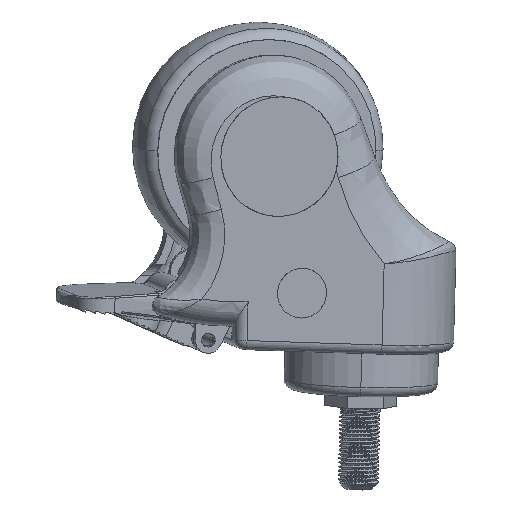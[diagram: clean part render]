
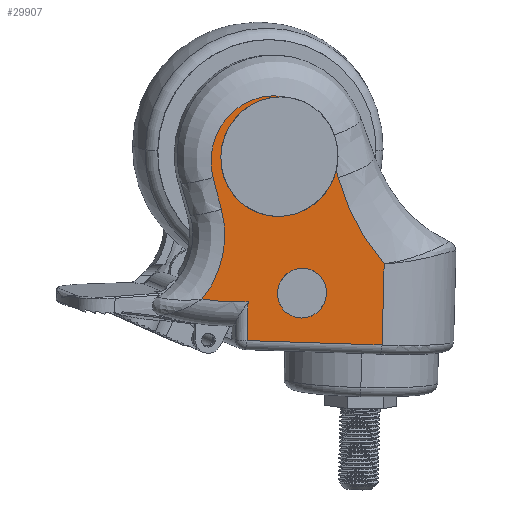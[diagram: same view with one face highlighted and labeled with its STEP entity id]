
A CAD part, top view. The second image highlights one B-rep face of the part: STEP entity #29907.
In plain terms, the highlighted planar face has unit normal (0.219, -0.092, 0.972) as drawn and (0, 0, -1) by its records, which use the part's own axes.
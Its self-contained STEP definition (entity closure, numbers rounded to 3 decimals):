
#27216=DIRECTION('',(0.,-1.,0.));
#27217=VECTOR('',#27216,24.382);
#27218=CARTESIAN_POINT('',(-136.627,95.914,-27.5));
#27219=LINE('',#27218,#27217);
#27238=CARTESIAN_POINT('',(-169.645,39.433,-27.5));
#27239=DIRECTION('',(0.,0.,-1.));
#27240=DIRECTION('',(0.,-1.,0.));
#27241=AXIS2_PLACEMENT_3D('',#27238,#27239,#27240);
#27243=CARTESIAN_POINT('',(-169.645,39.433,-27.5));
#27244=DIRECTION('',(0.,0.,-1.));
#27245=DIRECTION('',(0.,1.,0.));
#27246=AXIS2_PLACEMENT_3D('',#27243,#27244,#27245);
#27248=CARTESIAN_POINT('',(-152.08,43.367,
-27.5));
#27249=CARTESIAN_POINT('',(-151.86,44.098,
-27.5));
#27250=CARTESIAN_POINT('',(-151.64,44.828,
-27.5));
#27251=CARTESIAN_POINT('',(-151.422,45.559,
-27.5));
#27253=DIRECTION('',(-1.,-0.026,0.));
#27254=VECTOR('',#27253,41.514);
#27255=CARTESIAN_POINT('',(-136.627,95.914,-27.5));
#27256=LINE('',#27255,#27254);
#27257=CARTESIAN_POINT('',(-181.127,11.25,-27.5));
#27258=DIRECTION('',(0.,0.,1.));
#27259=DIRECTION('',(0.042,0.999,0.));
#27260=AXIS2_PLACEMENT_3D('',#27257,#27258,#27259);
#27262=CARTESIAN_POINT('',(-192.244,82.387,
-27.5));
#27263=CARTESIAN_POINT('',(-191.397,81.326,
-27.5));
#27264=CARTESIAN_POINT('',(-189.867,79.107,
-27.5));
#27265=CARTESIAN_POINT('',(-188.032,75.464,
-27.5));
#27266=CARTESIAN_POINT('',(-186.71,71.599,
-27.5));
#27267=CARTESIAN_POINT('',(-185.933,67.578,
-27.5));
#27268=CARTESIAN_POINT('',(-185.721,63.479,
-27.5));
#27269=CARTESIAN_POINT('',(-186.069,59.37,
-27.5));
#27270=CARTESIAN_POINT('',(-186.669,56.694,
-27.5));
#27271=CARTESIAN_POINT('',(-187.066,55.368,
-27.5));
#27273=CARTESIAN_POINT('',(-187.066,55.368,
-27.5));
#27274=CARTESIAN_POINT('',(-188.014,52.193,
-27.5));
#27275=CARTESIAN_POINT('',(-188.951,49.015,
-27.5));
#27276=CARTESIAN_POINT('',(-189.866,45.831,
-27.5));
#27278=CARTESIAN_POINT('',(-189.866,45.831,
-27.5));
#27279=CARTESIAN_POINT('',(-190.171,44.772,
-27.5));
#27280=CARTESIAN_POINT('',(-190.591,42.634,
-27.5));
#27281=CARTESIAN_POINT('',(-190.69,39.335,
-27.5));
#27282=CARTESIAN_POINT('',(-190.239,36.07,
-27.5));
#27283=CARTESIAN_POINT('',(-189.26,32.968,
-27.5));
#27284=CARTESIAN_POINT('',(-187.73,29.985,
-27.5));
#27285=CARTESIAN_POINT('',(-185.748,27.349,
-27.5));
#27286=CARTESIAN_POINT('',(-183.353,25.111,
-27.5));
#27287=CARTESIAN_POINT('',(-180.698,23.351,
-27.5));
#27288=CARTESIAN_POINT('',(-177.658,22.011,
-27.5));
#27289=CARTESIAN_POINT('',(-174.527,21.266,
-27.5));
#27290=CARTESIAN_POINT('',(-171.361,21.067,
-27.5));
#27291=CARTESIAN_POINT('',(-169.328,21.285,
-27.5));
#27292=CARTESIAN_POINT('',(-168.322,21.482,
-27.5));
#27294=CARTESIAN_POINT('',(-169.645,39.433,-27.5));
#27295=DIRECTION('',(0.,0.,-1.));
#27296=DIRECTION('',(0.073,-0.997,0.));
#27297=AXIS2_PLACEMENT_3D('',#27294,#27295,#27296);
#27299=CARTESIAN_POINT('',(-161.627,80.45,-27.5));
#27300=DIRECTION('',(0.,0.,-1.));
#27301=DIRECTION('',(0.,-1.,0.));
#27302=AXIS2_PLACEMENT_3D('',#27299,#27300,#27301);
#27304=CARTESIAN_POINT('',(-161.627,80.45,-27.5));
#27305=DIRECTION('',(0.,0.,-1.));
#27306=DIRECTION('',(0.,1.,0.));
#27307=AXIS2_PLACEMENT_3D('',#27304,#27305,#27306);
#27665=CARTESIAN_POINT('',(-136.627,71.533,
-27.5));
#27666=CARTESIAN_POINT('',(-138.338,69.68,
-27.5));
#27667=CARTESIAN_POINT('',(-141.523,65.807,
-27.5));
#27668=CARTESIAN_POINT('',(-145.63,59.468,
-27.5));
#27669=CARTESIAN_POINT('',(-148.99,52.7,
-27.5));
#27670=CARTESIAN_POINT('',(-150.699,47.979,
-27.5));
#27671=CARTESIAN_POINT('',(-151.422,45.559,
-27.5));
#27801=DIRECTION('',(0.,1.,0.));
#27802=VECTOR('',#27801,11.64);
#27803=CARTESIAN_POINT('',(-178.127,83.187,-27.5));
#27804=LINE('',#27803,#27802);
#28183=CARTESIAN_POINT('',(-178.127,94.827,-27.5));
#28184=VERTEX_POINT('',#28183);
#28185=CARTESIAN_POINT('',(-136.627,95.914,-27.5));
#28186=VERTEX_POINT('',#28185);
#28400=CARTESIAN_POINT('',(-136.627,71.533,
-27.5));
#28401=VERTEX_POINT('',#28400);
#28403=CARTESIAN_POINT('',(-169.645,21.433,-27.5));
#28404=CARTESIAN_POINT('',(-169.645,57.433,-27.5));
#28405=VERTEX_POINT('',#28403);
#28406=VERTEX_POINT('',#28404);
#28407=CARTESIAN_POINT('',(-152.08,43.367,-27.5));
#28408=VERTEX_POINT('',#28407);
#28409=VERTEX_POINT('',#27251);
#28410=CARTESIAN_POINT('',(-178.127,83.187,-27.5));
#28411=VERTEX_POINT('',#28410);
#28412=CARTESIAN_POINT('',(-192.244,82.387,-27.5));
#28413=VERTEX_POINT('',#28412);
#28414=VERTEX_POINT('',#27271);
#28415=VERTEX_POINT('',#27276);
#28416=VERTEX_POINT('',#27292);
#28417=CARTESIAN_POINT('',(-161.627,72.95,-27.5));
#28418=CARTESIAN_POINT('',(-161.627,87.95,-27.5));
#28419=VERTEX_POINT('',#28417);
#28420=VERTEX_POINT('',#28418);
#29872=CARTESIAN_POINT('',(0.,0.,-27.5));
#29873=DIRECTION('',(0.,0.,1.));
#29874=DIRECTION('',(1.,0.,0.));
#29875=AXIS2_PLACEMENT_3D('',#29872,#29873,#29874);
#29876=PLANE('',#29875);
#29878=ORIENTED_EDGE('',*,*,#29877,.T.);
#29880=ORIENTED_EDGE('',*,*,#29879,.T.);
#29882=ORIENTED_EDGE('',*,*,#29881,.T.);
#29884=ORIENTED_EDGE('',*,*,#29883,.F.);
#29885=ORIENTED_EDGE('',*,*,#29862,.F.);
#29886=ORIENTED_EDGE('',*,*,#28628,.T.);
#29888=ORIENTED_EDGE('',*,*,#29887,.F.);
#29890=ORIENTED_EDGE('',*,*,#29889,.T.);
#29892=ORIENTED_EDGE('',*,*,#29891,.T.);
#29894=ORIENTED_EDGE('',*,*,#29893,.T.);
#29896=ORIENTED_EDGE('',*,*,#29895,.T.);
#29898=ORIENTED_EDGE('',*,*,#29897,.T.);
#29899=EDGE_LOOP('',(#29878,#29880,#29882,#29884,#29885,#29886,#29888,#29890,
#29892,#29894,#29896,#29898));
#29900=FACE_OUTER_BOUND('',#29899,.F.);
#29902=ORIENTED_EDGE('',*,*,#29901,.T.);
#29904=ORIENTED_EDGE('',*,*,#29903,.T.);
#29905=EDGE_LOOP('',(#29902,#29904));
#29906=FACE_BOUND('',#29905,.F.);
#27242=CIRCLE('',#27241,18.);
#27247=CIRCLE('',#27246,18.);
#27252=B_SPLINE_CURVE_WITH_KNOTS('',3,(#27248,#27249,#27250,#27251),
.UNSPECIFIED.,.F.,.F.,(4,4),(0.,1.),.UNSPECIFIED.);
#27261=CIRCLE('',#27260,72.);
#27272=B_SPLINE_CURVE_WITH_KNOTS('',3,(#27262,#27263,#27264,#27265,#27266,
#27267,#27268,#27269,#27270,#27271),.UNSPECIFIED.,.F.,.F.,(4,1,1,1,1,1,1,4),(
0.,0.143,0.286,0.429,0.571,
0.714,0.857,1.),.UNSPECIFIED.);
#27277=B_SPLINE_CURVE_WITH_KNOTS('',3,(#27273,#27274,#27275,#27276),
.UNSPECIFIED.,.F.,.F.,(4,4),(0.,1.),.UNSPECIFIED.);
#27293=B_SPLINE_CURVE_WITH_KNOTS('',3,(#27278,#27279,#27280,#27281,#27282,
#27283,#27284,#27285,#27286,#27287,#27288,#27289,#27290,#27291,#27292),
.UNSPECIFIED.,.F.,.F.,(4,1,1,1,1,1,1,1,1,1,1,1,4),(0.,0.083,
0.167,0.25,0.333,0.417,0.5,
0.583,0.667,0.75,0.833,0.917,
1.),.UNSPECIFIED.);
#27298=CIRCLE('',#27297,18.);
#27303=CIRCLE('',#27302,7.5);
#27308=CIRCLE('',#27307,7.5);
#27672=B_SPLINE_CURVE_WITH_KNOTS('',3,(#27665,#27666,#27667,#27668,#27669,
#27670,#27671),.UNSPECIFIED.,.F.,.F.,(4,1,1,1,4),(0.,0.25,0.5,0.75,
1.),.UNSPECIFIED.);
#28628=EDGE_CURVE('',#28186,#28184,#27256,.T.);
#29862=EDGE_CURVE('',#28186,#28401,#27219,.T.);
#29877=EDGE_CURVE('',#28405,#28406,#27242,.T.);
#29879=EDGE_CURVE('',#28406,#28408,#27247,.T.);
#29881=EDGE_CURVE('',#28408,#28409,#27252,.T.);
#29883=EDGE_CURVE('',#28401,#28409,#27672,.T.);
#29887=EDGE_CURVE('',#28411,#28184,#27804,.T.);
#29889=EDGE_CURVE('',#28411,#28413,#27261,.T.);
#29891=EDGE_CURVE('',#28413,#28414,#27272,.T.);
#29893=EDGE_CURVE('',#28414,#28415,#27277,.T.);
#29895=EDGE_CURVE('',#28415,#28416,#27293,.T.);
#29897=EDGE_CURVE('',#28416,#28405,#27298,.T.);
#29901=EDGE_CURVE('',#28419,#28420,#27303,.T.);
#29903=EDGE_CURVE('',#28420,#28419,#27308,.T.);
#29907=ADVANCED_FACE('',(#29900,#29906),#29876,.F.);
